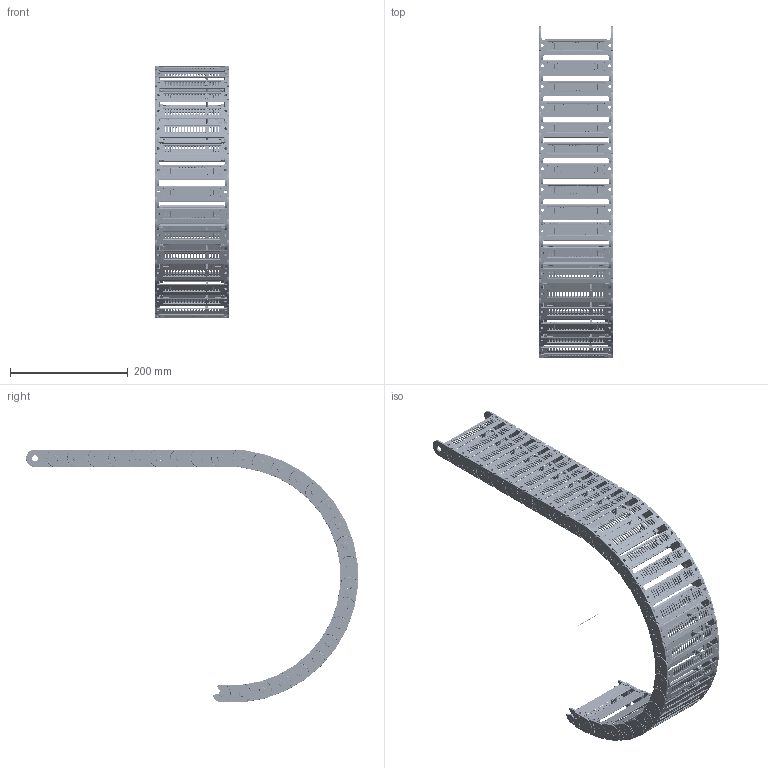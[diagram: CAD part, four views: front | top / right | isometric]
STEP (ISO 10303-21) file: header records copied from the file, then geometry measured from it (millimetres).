
FILE_DESCRIPTION((''),'2;1');
FILE_NAME('C:\Uebbing\PARAMETERKETTEN\KOLIBRI\Kol_30_125_0\Kol 30_125_0_R200.stp','2012-03-05T12:29:35',('Uebbing'),(''),'Autodesk Inventor 10','Autodesk Inventor 10','');
FILE_SCHEMA(('AUTOMOTIVE_DESIGN { 1 0 10303 214 1 1 1 1 }'));
Length unit declared in the file: millimetre
Products named in the file (6): KOLIBRI 30_125_0_PARAMETRISCH; Achse; Kol_30_125_0; PZ 30 Stecksteg; Kol_30_125_0_Klappsteg; Kol 30_125_0 Lasche
Assembly tree (32 placements, depth 3):
  KOLIBRI 30_125_0_PARAMETRISCH
    Achse
    Kol_30_125_0  x28
      PZ 30 Stecksteg
      Kol_30_125_0_Klappsteg
      Kol 30_125_0 Lasche
Bounding box: 125 x 563.98 x 430 mm (x, y, z)
Volume: 660547.6 mm3; surface area: 637080.2 mm2
Topology: 85 solids, 85 shells, 34583 faces, 94028 edges, 60259 vertices
Faces by surface type: plane 17194, cylinder 8597, bspline 3948, torus 3668, cone 1008, sphere 168
Full cylindrical faces by diameter (mm): 1 x1, 1.166 x28, 2.048 x28, 2.8 x224, 5.1 x56, 10 x56, 10.1 x56
Entity records: 43196 total; most frequent: CARTESIAN_POINT 12084, ORIENTED_EDGE 6636, DIRECTION 6228, EDGE_CURVE 3318, VERTEX_POINT 2140, AXIS2_PLACEMENT_3D 2125, VECTOR 1978, LINE 1978
